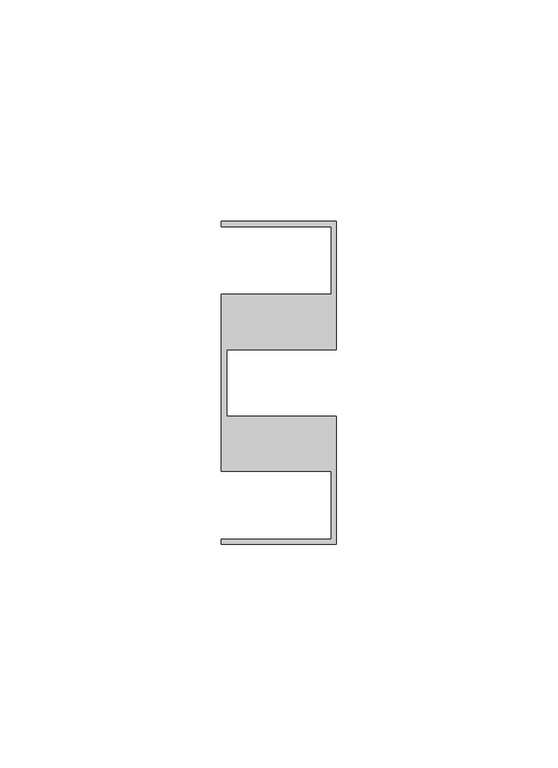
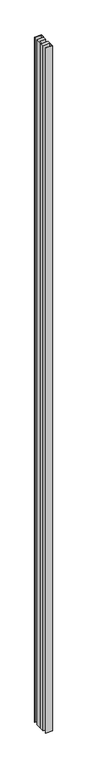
"""IFC4 building model written with IfcOpenShell, lengths in millimetres: member geometry, Прямоугольный импост : 10-AMG-2-Профиль 26Х73 Верх П."""

import ifcopenshell
import ifcopenshell.guid

model = None  # the IFC model being written
_history = None  # IfcOwnerHistory: only IFC2X3 demands one
_inside = {}  # id of a spatial element -> (the spatial element, [elements in it])
_under = {}  # id of a project, library or spatial element -> (it, [spatial elements below it])
_declared = {}  # id of a project -> (the project, [libraries it declares])
_typed = {}  # id of a type object -> (the type object, [elements of that type])
_made_of = {}  # id of a material, layer set ... -> (it, [elements and type objects made of it])


def new_model(schema):
    """Start an empty IFC model of exactly this schema.

    Asked for "IFC4X3", IfcOpenShell would pick the latest addendum, in which some entities
    have other attributes; the version numbers below select the first issue.
    IFC2X3 requires an IfcOwnerHistory on every rooted entity: one is made here for all.
    """
    global model, _history
    if schema == "IFC4X3":
        model = ifcopenshell.file(schema_version=(4, 3, 0, 0))
    else:
        model = ifcopenshell.file(schema=schema)
    _inside.clear()
    _under.clear()
    _declared.clear()
    _typed.clear()
    _made_of.clear()
    _history = None
    if model.schema == "IFC2X3":
        org = make("IfcOrganization", Name="unknown")
        user = make(
            "IfcPersonAndOrganization",
            ThePerson=make("IfcPerson", FamilyName="unknown"),
            TheOrganization=org,
        )
        app = make(
            "IfcApplication",
            ApplicationDeveloper=org,
            Version="unknown",
            ApplicationFullName="unknown",
            ApplicationIdentifier="unknown",
        )
        _history = make(
            "IfcOwnerHistory",
            OwningUser=user,
            OwningApplication=app,
            ChangeAction="ADDED",
            CreationDate=0,
        )
    return model


def make(cls, **values):
    """One entity of the class cls with the attributes given. An attribute that is None is left unset."""
    return model.create_entity(
        cls, **{name: value for name, value in values.items() if value is not None}
    )


def rooted(cls, **values):
    """An entity with a GlobalId (a new one), such as an element, a storey or a relation."""
    return make(cls, GlobalId=ifcopenshell.guid.new(), OwnerHistory=_history, **values)


def si_unit(unit_type, name, prefix=None):
    """IfcSIUnit, for example si_unit("LENGTHUNIT", "METRE", prefix="MILLI")."""
    return make("IfcSIUnit", UnitType=unit_type, Prefix=prefix, Name=name)


def assignment(units):
    """IfcUnitAssignment: the units of a project."""
    return None if units is None else make("IfcUnitAssignment", Units=units)


def point(xyz):
    """IfcCartesianPoint."""
    return None if xyz is None else make("IfcCartesianPoint", Coordinates=xyz)


def direction(xyz):
    """IfcDirection."""
    return None if xyz is None else make("IfcDirection", DirectionRatios=xyz)


def frame(location, z_axis=None, x_axis=None):
    """IfcAxis2Placement3D, a coordinate frame: its origin and axes. An axis left out is left unset."""
    return make(
        "IfcAxis2Placement3D",
        Location=point(location),
        Axis=direction(z_axis),
        RefDirection=direction(x_axis),
    )


def origin():
    """The frame at (0, 0, 0) with its axes left unset."""
    return frame((0.0, 0.0, 0.0))


def place(relative_to, where):
    """IfcLocalPlacement: puts the frame where relative to a parent placement (None: the world)."""
    return make(
        "IfcLocalPlacement", PlacementRelTo=relative_to, RelativePlacement=where
    )


def context(
    kind, dimensions, precision=None, world=None, true_north=None, identifier=None
):
    """IfcGeometricRepresentationContext, for example the 3D "Model" context."""
    return make(
        "IfcGeometricRepresentationContext",
        ContextIdentifier=identifier,
        ContextType=kind,
        CoordinateSpaceDimension=dimensions,
        Precision=precision,
        WorldCoordinateSystem=world,
        TrueNorth=true_north,
    )


def project(units=None, contexts=None):
    """IfcProject with its units and contexts."""
    return rooted(
        "IfcProject",
        Name="project",
        RepresentationContexts=contexts,
        UnitsInContext=assignment(units),
    )


def spatial(cls, under=None, at=None, **own):
    """A site, building, storey or space (cls), placed at a placement, below another one or the project."""
    s = rooted(cls, ObjectPlacement=at, **own)
    if under is not None:
        _under.setdefault(under.id(), (under, []))[1].append(s)
    return s


def polyline(points):
    """IfcPolyline through the points."""
    return make("IfcPolyline", Points=[point(p) for p in points])


def outline(outer, holes=None, kind="AREA"):
    """IfcArbitraryClosedProfileDef: a profile drawn as a closed curve; with holes, ...WithVoids."""
    if holes is None:
        return make("IfcArbitraryClosedProfileDef", ProfileType=kind, OuterCurve=outer)
    return make(
        "IfcArbitraryProfileDefWithVoids",
        ProfileType=kind,
        OuterCurve=outer,
        InnerCurves=holes,
    )


def extrude(swept, where, along, depth):
    """IfcExtrudedAreaSolid: the profile swept, set in the frame where, extruded along a direction by depth."""
    return make(
        "IfcExtrudedAreaSolid",
        SweptArea=swept,
        Position=where,
        ExtrudedDirection=direction(along),
        Depth=depth,
    )


def shape(context_of_items, identifier, shape_type, items):
    """IfcShapeRepresentation: the items that make up one representation, for example the "Body"."""
    return make(
        "IfcShapeRepresentation",
        ContextOfItems=context_of_items,
        RepresentationIdentifier=identifier,
        RepresentationType=shape_type,
        Items=items,
    )


def source(mapping_origin, context_of_items, identifier, shape_type, items):
    """IfcRepresentationMap: a shape defined once, which mapped items show again and again."""
    return make(
        "IfcRepresentationMap",
        MappingOrigin=mapping_origin,
        MappedRepresentation=shape(context_of_items, identifier, shape_type, items),
    )


def transform(
    local_origin,
    x_axis=None,
    y_axis=None,
    z_axis=None,
    scale=None,
    scale2=None,
    scale3=None,
    uniform=True,
):
    """IfcCartesianTransformationOperator3D, or its non-uniform kind. x_axis, y_axis, z_axis: its Axis1, 2, 3."""
    if uniform:
        return make(
            "IfcCartesianTransformationOperator3D",
            Axis1=direction(x_axis),
            Axis2=direction(y_axis),
            LocalOrigin=point(local_origin),
            Scale=scale,
            Axis3=direction(z_axis),
        )
    return make(
        "IfcCartesianTransformationOperator3DnonUniform",
        Axis1=direction(x_axis),
        Axis2=direction(y_axis),
        LocalOrigin=point(local_origin),
        Scale=scale,
        Axis3=direction(z_axis),
        Scale2=scale2,
        Scale3=scale3,
    )


def mapped(mapping_source, mapping_target):
    """IfcMappedItem: shows the shape of a source again, moved by a transform."""
    return make(
        "IfcMappedItem", MappingSource=mapping_source, MappingTarget=mapping_target
    )


def made_of(thing, what):
    """Note that an element or type object is made of a material, layer set ...; save() writes the relation."""
    if what is not None:
        _made_of.setdefault(what.id(), (what, []))[1].append(thing)
    return thing


def element(
    cls,
    number,
    at=None,
    inside=None,
    cuts=None,
    type_object=None,
    material=None,
    context=None,
    identifier="Body",
    shape_type=None,
    held_by="IfcProductDefinitionShape",
    body=None,
    shapes=None,
    **own,
):
    """One element of the class cls, such as IfcWall. Its Tag is "e" and its number.

    at: its placement. inside: the storey or other place that contains it. cuts: it is an
    opening in that element (IfcRelVoidsElement). A single representation is given by context,
    identifier, shape_type and body (its items); several are given by shapes. held_by: the class
    of the entity that holds the representations. save() writes the other relations.
    """
    e = rooted(cls, Tag="e%d" % number, ObjectPlacement=at, **own)
    if body is not None:
        shapes = [shape(context, identifier, shape_type, body)]
    if shapes is not None:
        e.Representation = make(held_by, Representations=shapes)
    if inside is not None:
        _inside.setdefault(inside.id(), (inside, []))[1].append(e)
    if cuts is not None:
        rooted(
            "IfcRelVoidsElement", RelatingBuildingElement=cuts, RelatedOpeningElement=e
        )
    if type_object is not None:
        _typed.setdefault(type_object.id(), (type_object, []))[1].append(e)
    return made_of(e, material)


def aggregate(whole, parts):
    """IfcRelAggregates: a whole, such as a stair, and the parts it consists of."""
    return rooted("IfcRelAggregates", RelatingObject=whole, RelatedObjects=parts)


def save(model, path):
    """Write the relations noted so far, then the file.

    IfcRelAggregates (storeys below a building ...), IfcRelContainedInSpatialStructure (elements
    in a storey), IfcRelDefinesByType, IfcRelAssociatesMaterial and IfcRelDeclares: one each for
    every whole, place, type object, material and project.
    """
    for whole, parts in _under.values():
        aggregate(whole, parts)
    for where, things in _inside.values():
        rooted(
            "IfcRelContainedInSpatialStructure",
            RelatedElements=things,
            RelatingStructure=where,
        )
    for kind, things in _typed.values():
        rooted("IfcRelDefinesByType", RelatedObjects=things, RelatingType=kind)
    for what, things in _made_of.values():
        rooted("IfcRelAssociatesMaterial", RelatedObjects=things, RelatingMaterial=what)
    for by, libraries in _declared.values():
        rooted("IfcRelDeclares", RelatingContext=by, RelatedDefinitions=libraries)
    model.write(path)


def member_db9ff38b(model_context):
    return source(origin(), model_context, "Body", "SweptSolid", [
        extrude(outline(polyline([(-26.0, -36.5), (-26.0, -35.3), (-1.2, -35.3), (-1.2, -20.0), (-26.0, -20.0), (-26.0, 0.0), (-26.0, 20.0), (-1.2, 20.0), (-1.2, 35.3116043), (-26.0, 35.3116043), (-26.0, 36.5), (0.0, 36.5), (0.0, 7.5116043), (-24.8, 7.5116043), (-24.8, 0.0), (-24.8, -7.5116043), (0.0, -7.5116043), (0.0, -36.5), (-26.0, -36.5)])), frame((0.0, 0.0, -2800.0), z_axis=(0.0, 0.0, 1.0), x_axis=(1.0, 0.0, 0.0)), (0.0, 0.0, 1.0), 2800.0),
    ])


if __name__ == "__main__":
    model = new_model("IFC4")
    model_context = context("Model", 3, world=origin())
    ifc_project = project(units=[si_unit("LENGTHUNIT", "METRE", prefix="MILLI")], contexts=[model_context])
    site = spatial("IfcSite", under=ifc_project)
    building = spatial("IfcBuilding", under=site)
    placement = place(None, origin())
    member_shape = member_db9ff38b(model_context)
    element("IfcMember", 1, ObjectType="Прямоугольный импост : 10-AMG-2-Профиль 26Х73 Верх П", at=placement, inside=building, context=model_context, shape_type="MappedRepresentation", body=[
        mapped(member_shape, transform((0.0, 0.0, 0.0), x_axis=(1.0, 0.0, 0.0), y_axis=(0.0, 1.0, 0.0), z_axis=(0.0, 0.0, 1.0))),
    ])
    save(model, "model.ifc")
